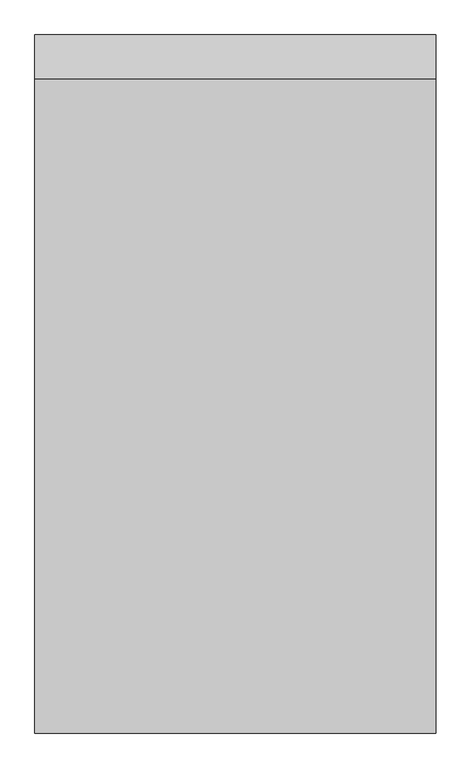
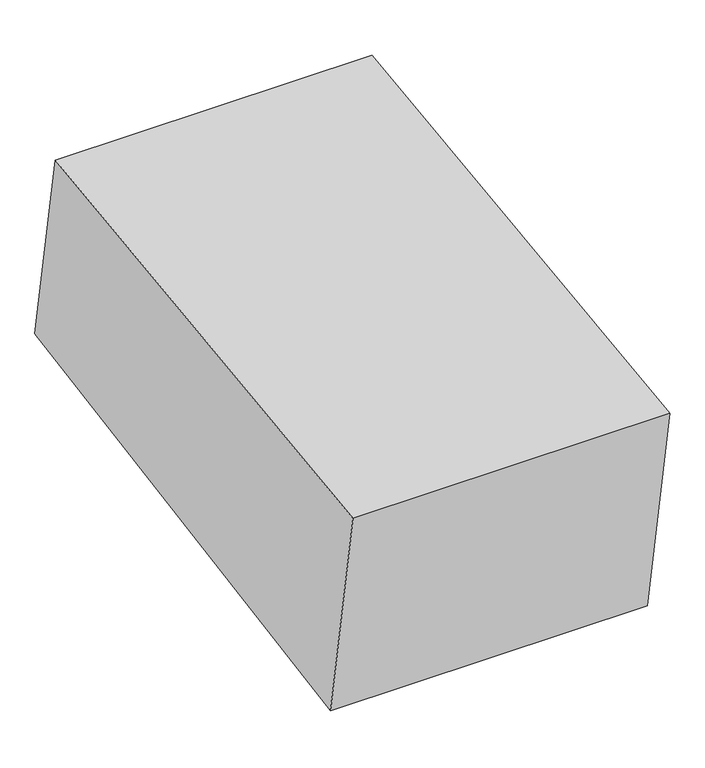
"""IFC4 building model written with IfcOpenShell, lengths in millimetres: proxy geometry, Excavation FamilySP : Excavation FamilySP."""

from ifc_helpers import new_model, si_unit, frame, origin, place, context, project, spatial, polyline, outline, extrude, source, transform, mapped, element, save


def generic_models_ac65de91(model_context):
    return source(origin(), model_context, "Body", "SweptSolid", [
        extrude(outline(polyline([(-338.2524365, 1970.9361102), (0.0, 0.0), (-4927.9539369, -845.736408), (-5302.5781994, 1337.1317905), (-338.2524365, 1970.9361102)])), frame((-1524.0, 0.0, 0.0), z_axis=(1.0, 0.0, 0.0), x_axis=(0.0, 1.0, 0.0)), (0.0, 0.0, 1.0), 3048.0),
    ])


if __name__ == "__main__":
    model = new_model("IFC4")
    model_context = context("Model", 3, world=origin())
    ifc_project = project(units=[si_unit("LENGTHUNIT", "METRE", prefix="MILLI")], contexts=[model_context])
    site = spatial("IfcSite", under=ifc_project)
    building = spatial("IfcBuilding", under=site)
    placement = place(None, origin())
    generic_models_shape = generic_models_ac65de91(model_context)
    element("IfcBuildingElementProxy", 1, Name="Excavation FamilySP : Excavation FamilySP", ObjectType="Excavation FamilySP : Excavation FamilySP", at=placement, inside=building, context=model_context, shape_type="MappedRepresentation", body=[
        mapped(generic_models_shape, transform((0.0, 0.0, 0.0), x_axis=(1.0, 0.0, 0.0), y_axis=(0.0, 1.0, 0.0), z_axis=(0.0, 0.0, 1.0))),
    ])
    save(model, "model.ifc")
